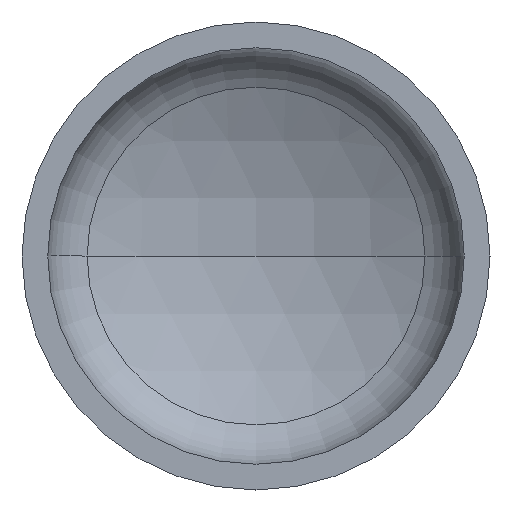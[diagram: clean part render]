
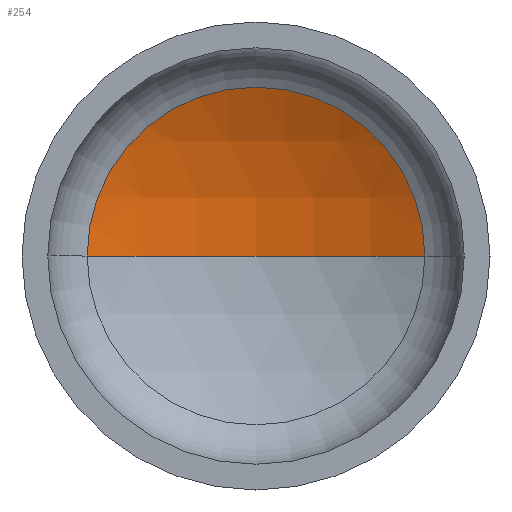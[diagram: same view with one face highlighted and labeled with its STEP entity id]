
A CAD part, front view. The second image highlights one B-rep face of the part: STEP entity #254.
In plain terms, the highlighted spherical face has radius 480 mm.
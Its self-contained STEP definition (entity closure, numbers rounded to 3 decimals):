
#19 = EDGE_LOOP ( 'NONE', ( #383, #379, #51 ) ) ;
#26 = DIRECTION ( 'NONE',  ( 1., 0., 0. ) ) ;
#34 = CARTESIAN_POINT ( 'NONE',  ( 0., -246.293, 0. ) ) ;
#42 = VERTEX_POINT ( 'NONE', #284 ) ;
#46 = DIRECTION ( 'NONE',  ( -1., 0., 0. ) ) ;
#51 = ORIENTED_EDGE ( 'NONE', *, *, #181, .T. ) ;
#74 = DIRECTION ( 'NONE',  ( 0., 0., -1. ) ) ;
#80 = AXIS2_PLACEMENT_3D ( 'NONE', #34, #167, #46 ) ;
#94 = AXIS2_PLACEMENT_3D ( 'NONE', #411, #180, #201 ) ;
#97 = AXIS2_PLACEMENT_3D ( 'NONE', #273, #74, #392 ) ;
#117 = VERTEX_POINT ( 'NONE', #226 ) ;
#119 = VERTEX_POINT ( 'NONE', #247 ) ;
#124 = AXIS2_PLACEMENT_3D ( 'NONE', #140, #317, #26 ) ;
#140 = CARTESIAN_POINT ( 'NONE',  ( 0., 182.111, 0. ) ) ;
#145 = CIRCLE ( 'NONE', #94, 480. ) ;
#157 = CIRCLE ( 'NONE', #124, 216.495 ) ;
#167 = DIRECTION ( 'NONE',  ( 0., 0., -1. ) ) ;
#180 = DIRECTION ( 'NONE',  ( 0., 0., 1. ) ) ;
#181 = EDGE_CURVE ( 'NONE', #117, #119, #157, .T. ) ;
#186 = EDGE_CURVE ( 'NONE', #42, #117, #406, .T. ) ;
#187 = EDGE_CURVE ( 'NONE', #42, #119, #145, .T. ) ;
#201 = DIRECTION ( 'NONE',  ( 1., 0., 0. ) ) ;
#226 = CARTESIAN_POINT ( 'NONE',  ( 216.495, 182.111, 0. ) ) ;
#247 = CARTESIAN_POINT ( 'NONE',  ( -216.495, 182.111, 0. ) ) ;
#254 = ADVANCED_FACE ( 'NONE', ( #398 ), #277, .F. ) ;
#273 = CARTESIAN_POINT ( 'NONE',  ( 0., -246.293, 0. ) ) ;
#277 = SPHERICAL_SURFACE ( 'NONE', #80, 480. ) ;
#284 = CARTESIAN_POINT ( 'NONE',  ( 0., 233.707, 0. ) ) ;
#317 = DIRECTION ( 'NONE',  ( 0., -1., 0. ) ) ;
#379 = ORIENTED_EDGE ( 'NONE', *, *, #186, .T. ) ;
#383 = ORIENTED_EDGE ( 'NONE', *, *, #187, .F. ) ;
#392 = DIRECTION ( 'NONE',  ( -1., 0., 0. ) ) ;
#398 = FACE_OUTER_BOUND ( 'NONE', #19, .T. ) ;
#406 = CIRCLE ( 'NONE', #97, 480. ) ;
#411 = CARTESIAN_POINT ( 'NONE',  ( 0., -246.293, 0. ) ) ;
